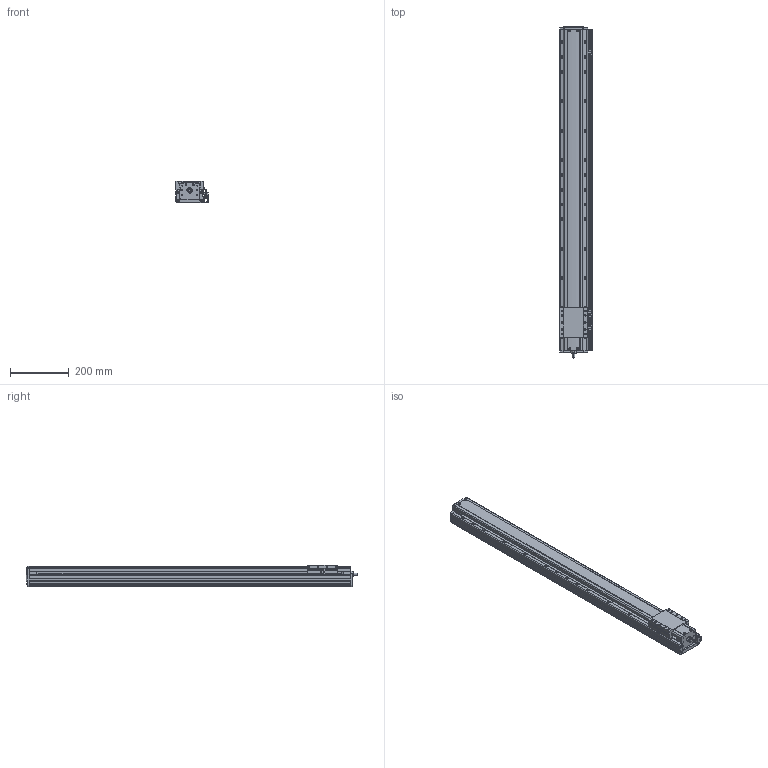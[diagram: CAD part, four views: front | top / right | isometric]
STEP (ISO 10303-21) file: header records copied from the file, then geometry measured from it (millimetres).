
FILE_DESCRIPTION(('STEP AP214'),'1');
FILE_NAME('Z:/Web/3D/PSA95/STP/PSA95-900 (3D)/PSA95ㅁㅁ-900+3SR.stp','2014-07-03T00:49:53',(' '),(' '),'Spatial InterOp 3D',' ',' ');
FILE_SCHEMA(('automotive_design'));
Length unit declared in the file: millimetre
Products named in the file (36): BASE; RRCV; 스크루 : Round - M4.0 x 10.0; 너트 : Square - M10.0 x 220.7419; RR1500; FRCV-090; 스크루 : Round - M4.0 x 6.0; SLBL-PA90; EE-SX674; SBK-SX674-352; 스크루 : Round - M3.0 x 6.0; M3.0 x 6.0; SRL-16x17-380L; SGD-PA95; 스크루 : Round - M3.0 x 8.0
Bounding box: 111 x 1126 x 74 mm (x, y, z)
Volume: 6006843.8 mm3; surface area: 702073.6 mm2
Topology: 36 solids, 36 shells, 2392 faces, 6418 edges, 4118 vertices
Faces by surface type: plane 1372, cylinder 711, cone 221, sphere 50, bspline 24, torus 14
Entity records: 96361 total; most frequent: CARTESIAN_POINT 16163, DIRECTION 12694, ORIENTED_EDGE 12556, EDGE_CURVE 6278, LINE 4288, VECTOR 4288, AXIS2_PLACEMENT_3D 4203, VERTEX_POINT 4118
